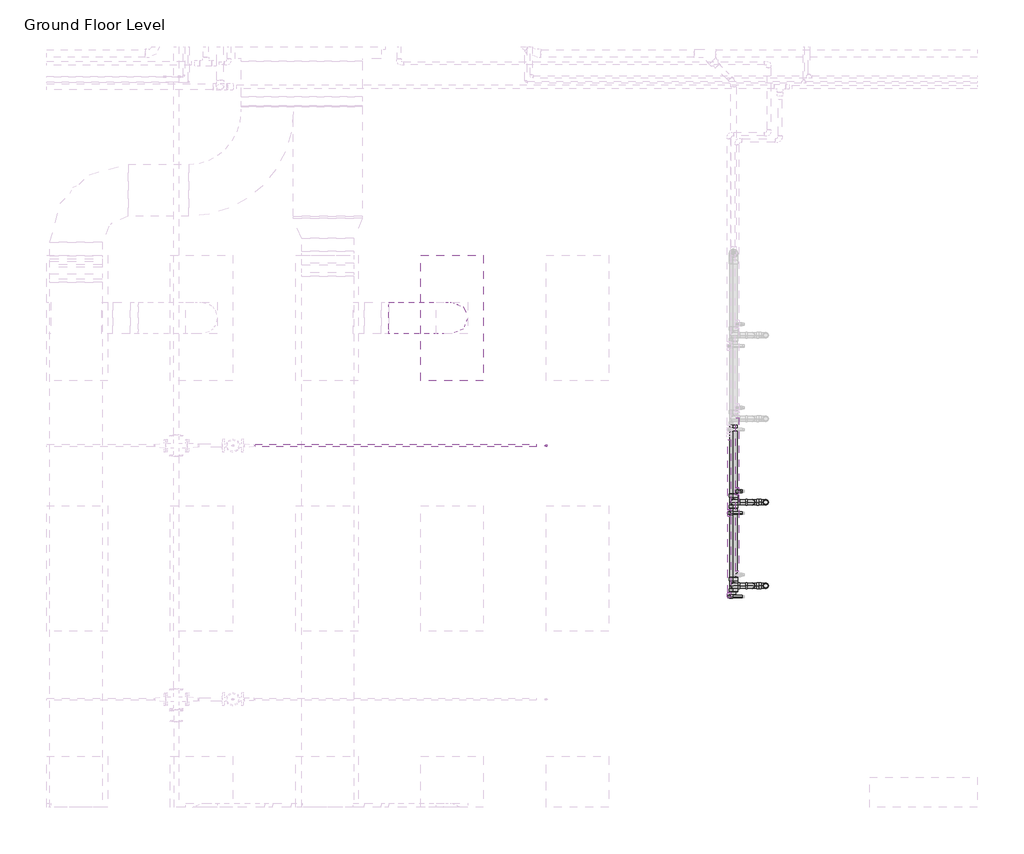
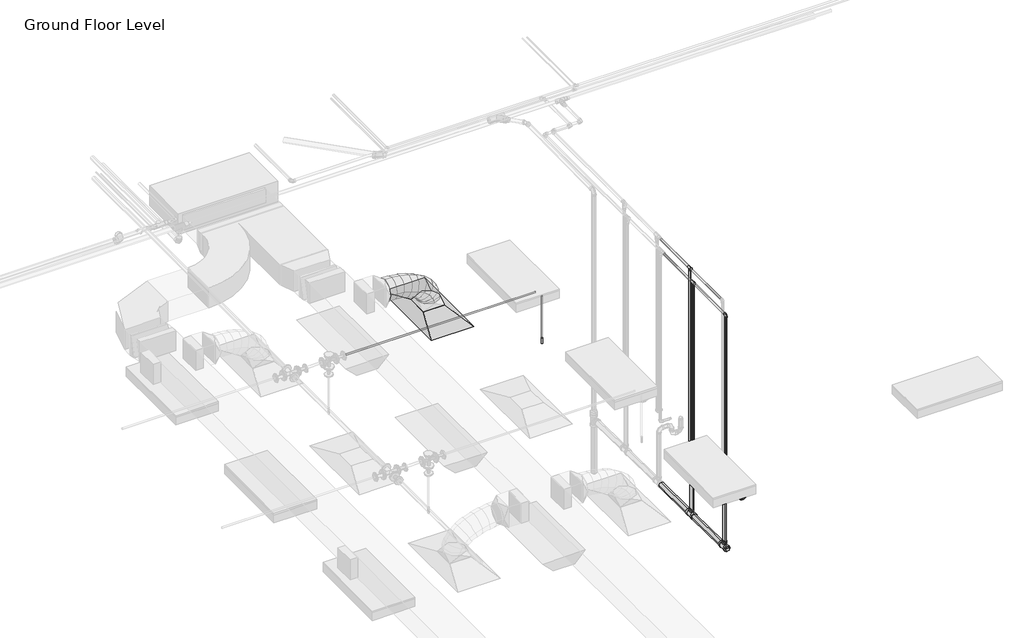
# One storey, part 50 of 74: 24 pipe segments, 17 pipe fittings, 1 air terminal, 1 duct segment, 1 fire suppression terminal.
"""IFC4 building model written with IfcOpenShell, lengths in millimetres."""

from ifc_helpers import new_model, si_unit, point, frame, frame_2d, origin, place, context, project, spatial, circle_curve, ellipse_curve, trimmed, segment, composite_curve, outline, extrude, transform, mapped, element, save
from ifc_brep_helpers import plane_surface, cylinder_surface, advanced_brep
from components import m_return_diffuser_1200x600_1200_x_600_face_300_x_300_d1983ef6, m_sprinkler_dry_pendent_hosted_15_mm_dry_pendent_9bda8e11, m_bend_pvc_sch_40_dwv_standard_738aab8b, m_plug_pvc_sch_40_dwv_standard_af737ab4, m_tee_reducing_sanitary_pvc_sch_40_dwv_standard_21d2848c, standard_b266ab3f, standard_636910a4

model = new_model("IFC4")

# Units and contexts
model_context = context("Model", 3, world=origin())
ifc_project = project(units=[si_unit("LENGTHUNIT", "METRE", prefix="MILLI")], contexts=[model_context])

# Site, building, storey
site = spatial("IfcSite", under=ifc_project)
building = spatial("IfcBuilding", under=site)
storey = spatial("IfcBuildingStorey", under=building, Name="Ground Floor Level", Elevation=900.0)

# Air terminal
placement = place(None, origin())
m_return_diffuser_1200x600_1200_x_600_face_300_x_300_shape = m_return_diffuser_1200x600_1200_x_600_face_300_x_300_d1983ef6(model_context)
element("IfcAirTerminal", 1, ObjectType="M_Supply Diffuser 1200x600 : 1200 x 600 Face 300 x 300 Connection", at=placement, inside=storey, context=model_context, shape_type="MappedRepresentation", body=[
    mapped(m_return_diffuser_1200x600_1200_x_600_face_300_x_300_shape, transform((-3337.2327605, 11235.2153534, 3650.0), x_axis=(0.0, 1.0, 0.0), y_axis=(-1.0, 0.0, 0.0), z_axis=(0.0, 0.0, 1.0))),
])

# Duct segment
element("IfcDuctSegment", 2, ObjectType="Flex - Round", at=placement, inside=storey, context=model_context, shape_type="AdvancedBrep", body=[
    advanced_brep(
    [(-3187.2327605, 11235.2153534, 3826.6), (-3337.2327605, 11085.2153534, 3826.6), (-3487.2327605, 11235.2153534, 3826.6), (-3337.2327605, 11385.2153534, 3826.6), (-3187.2327605, 11235.2153534, 3882.126257), (-3337.2327605, 11085.2153534, 3857.3050511), (-3487.2327605, 11235.2153534, 3832.4838453), (-3337.2327605, 11385.2153534, 3857.3050511), (-3218.4262882, 11235.2153534, 3973.8000574), (-3353.8942835, 11085.2153534, 3906.2711428), (-3489.3622789, 11235.2153534, 3838.7422282), (-3353.8942835, 11385.2153534, 3906.2711428), (-3288.1608022, 11235.2153534, 4076.4131518), (-3399.7726231, 11085.2153534, 3973.7803017), (-3511.3844439, 11235.2153534, 3871.1474515), (-3399.7726231, 11385.2153534, 3973.7803017), (-3386.0893727, 11235.2153534, 4155.7119505), (-3468.7084348, 11085.2153534, 4029.6018768), (-3551.3274968, 11235.2153534, 3903.4918031), (-3468.7084348, 11385.2153534, 4029.6018768), (-3494.8345319, 11235.2153534, 4212.2274343), (-3554.5423743, 11085.2153534, 4074.2102682), (-3614.2502168, 11235.2153534, 3936.193102), (-3554.5423743, 11385.2153534, 4074.2102682), (-3609.1269227, 11235.2153534, 4252.3116148), (-3651.1150974, 11085.2153534, 4108.0798761), (-3693.1032721, 11235.2153534, 3963.8481373), (-3651.1150974, 11385.2153534, 4108.0798761), (-3724.8585456, 11235.2153534, 4279.3191535), (-3752.2672597, 11085.2153534, 4131.6851006), (-3779.6759737, 11235.2153534, 3984.0510476), (-3752.2672597, 11385.2153534, 4131.6851006), (-3837.5181627, 11235.2153534, 4294.9502122), (-3851.8395168, 11085.2153534, 4145.5003418), (-3866.1608709, 11235.2153534, 3996.0504715), (-3851.8395168, 11385.2153534, 4145.5003418), (-3932.3402653, 11235.2153534, 4300.0), (-3936.3315914, 11085.2153534, 4150.0), (-3940.3229175, 11235.2153534, 4000.0), (-3936.3315914, 11385.2153534, 4150.0), (-3943.6725245, 11235.2153534, 4300.0), (-3943.6725245, 11385.2153534, 4150.0), (-3943.6725245, 11235.2153534, 4000.0), (-3943.6725245, 11085.2153534, 4150.0)],
    [
        (0, 1, circle_curve(frame((-3337.2327605, 11235.2153534, 3826.6), z_axis=(0.0, 0.0, -1.0), x_axis=(1.0, 0.0, 0.0)), 150.0)),
        (1, 2, circle_curve(frame((-3337.2327605, 11235.2153534, 3826.6), z_axis=(0.0, 0.0, -1.0), x_axis=(1.0, 0.0, 0.0)), 150.0)),
        (2, 3, circle_curve(frame((-3337.2327605, 11235.2153534, 3826.6), z_axis=(0.0, 0.0, -1.0), x_axis=(1.0, 0.0, 0.0)), 150.0)),
        (3, 0, circle_curve(frame((-3337.2327605, 11235.2153534, 3826.6), z_axis=(0.0, 0.0, -1.0), x_axis=(1.0, 0.0, 0.0)), 150.0)),
        (0, 4),
        (4, 5, ellipse_curve(frame((-3337.2327605, 11235.2153534, 3857.3050511), z_axis=(0.16325469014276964, 0.0, -0.9865839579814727), x_axis=(-0.9865839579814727, 0.0, -0.16325469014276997)), 152.039772, 150.0)),
        (5, 1),
        (5, 6, ellipse_curve(frame((-3337.2327605, 11235.2153534, 3857.3050511), z_axis=(0.16325469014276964, 0.0, -0.9865839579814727), x_axis=(-0.9865839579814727, 0.0, -0.16325469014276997)), 152.039772, 150.0)),
        (6, 2),
        (6, 7, ellipse_curve(frame((-3337.2327605, 11235.2153534, 3857.3050511), z_axis=(0.16325469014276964, 0.0, -0.9865839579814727), x_axis=(-0.9865839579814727, 0.0, -0.16325469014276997)), 152.039772, 150.0)),
        (7, 3),
        (7, 4, ellipse_curve(frame((-3337.2327605, 11235.2153534, 3857.3050511), z_axis=(0.16325469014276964, 0.0, -0.9865839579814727), x_axis=(-0.9865839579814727, 0.0, -0.16325469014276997)), 152.039772, 150.0)),
        (4, 8),
        (8, 9, ellipse_curve(frame((-3353.8942835, 11235.2153534, 3906.2711428), z_axis=(0.4461293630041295, 0.0, -0.8949684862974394), x_axis=(-0.8949684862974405, 0.0, -0.4461293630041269)), 151.3662184, 150.0)),
        (9, 5),
        (9, 10, ellipse_curve(frame((-3353.8942835, 11235.2153534, 3906.2711428), z_axis=(0.4461293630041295, 0.0, -0.8949684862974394), x_axis=(-0.8949684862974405, 0.0, -0.4461293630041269)), 151.3662184, 150.0)),
        (10, 6),
        (10, 11, ellipse_curve(frame((-3353.8942835, 11235.2153534, 3906.2711428), z_axis=(0.4461293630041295, 0.0, -0.8949684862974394), x_axis=(-0.8949684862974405, 0.0, -0.4461293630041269)), 151.3662184, 150.0)),
        (11, 7),
        (11, 8, ellipse_curve(frame((-3353.8942835, 11235.2153534, 3906.2711428), z_axis=(0.4461293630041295, 0.0, -0.8949684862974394), x_axis=(-0.8949684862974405, 0.0, -0.4461293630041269)), 151.3662184, 150.0)),
        (8, 12),
        (12, 13, ellipse_curve(frame((-3399.7726231, 11235.2153534, 3973.7803017), z_axis=(0.6768778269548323, 0.0, -0.7360953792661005), x_axis=(-0.7360953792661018, 0.0, -0.676877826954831)), 151.6268462, 150.0)),
        (13, 9),
        (13, 14, ellipse_curve(frame((-3399.7726231, 11235.2153534, 3973.7803017), z_axis=(0.6768778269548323, 0.0, -0.7360953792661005), x_axis=(-0.7360953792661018, 0.0, -0.676877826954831)), 151.6268462, 150.0)),
        (14, 10),
        (14, 15, ellipse_curve(frame((-3399.7726231, 11235.2153534, 3973.7803017), z_axis=(0.6768778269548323, 0.0, -0.7360953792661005), x_axis=(-0.7360953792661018, 0.0, -0.676877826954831)), 151.6268462, 150.0)),
        (15, 11),
        (15, 12, ellipse_curve(frame((-3399.7726231, 11235.2153534, 3973.7803017), z_axis=(0.6768778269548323, 0.0, -0.7360953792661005), x_axis=(-0.7360953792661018, 0.0, -0.676877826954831)), 151.6268462, 150.0)),
        (12, 16),
        (16, 17, ellipse_curve(frame((-3468.7084348, 11235.2153534, 4029.6018768), z_axis=(0.8364756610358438, 0.0, -0.5480040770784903), x_axis=(-0.5480040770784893, 0.0, -0.8364756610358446)), 150.7635901, 150.0)),
        (17, 13),
        (17, 18, ellipse_curve(frame((-3468.7084348, 11235.2153534, 4029.6018768), z_axis=(0.8364756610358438, 0.0, -0.5480040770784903), x_axis=(-0.5480040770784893, 0.0, -0.8364756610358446)), 150.7635901, 150.0)),
        (18, 14),
        (18, 19, ellipse_curve(frame((-3468.7084348, 11235.2153534, 4029.6018768), z_axis=(0.8364756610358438, 0.0, -0.5480040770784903), x_axis=(-0.5480040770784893, 0.0, -0.8364756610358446)), 150.7635901, 150.0)),
        (19, 15),
        (19, 16, ellipse_curve(frame((-3468.7084348, 11235.2153534, 4029.6018768), z_axis=(0.8364756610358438, 0.0, -0.5480040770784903), x_axis=(-0.5480040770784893, 0.0, -0.8364756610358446)), 150.7635901, 150.0)),
        (16, 20),
        (20, 21, ellipse_curve(frame((-3554.5423743, 11235.2153534, 4074.2102682), z_axis=(0.9177970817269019, 0.0, -0.3970497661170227), x_axis=(-0.39704976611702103, 0.0, -0.9177970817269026)), 150.3787372, 150.0)),
        (21, 17),
        (21, 22, ellipse_curve(frame((-3554.5423743, 11235.2153534, 4074.2102682), z_axis=(0.9177970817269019, 0.0, -0.3970497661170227), x_axis=(-0.39704976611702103, 0.0, -0.9177970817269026)), 150.3787372, 150.0)),
        (22, 18),
        (22, 23, ellipse_curve(frame((-3554.5423743, 11235.2153534, 4074.2102682), z_axis=(0.9177970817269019, 0.0, -0.3970497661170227), x_axis=(-0.39704976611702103, 0.0, -0.9177970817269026)), 150.3787372, 150.0)),
        (23, 19),
        (23, 20, ellipse_curve(frame((-3554.5423743, 11235.2153534, 4074.2102682), z_axis=(0.9177970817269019, 0.0, -0.3970497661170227), x_axis=(-0.39704976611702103, 0.0, -0.9177970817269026)), 150.3787372, 150.0)),
        (20, 24),
        (24, 25, ellipse_curve(frame((-3651.1150974, 11235.2153534, 4108.0798761), z_axis=(0.9601419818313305, 0.0, -0.2795127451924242), x_axis=(-0.2795127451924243, 0.0, -0.9601419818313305)), 150.2191774, 150.0)),
        (25, 21),
        (25, 26, ellipse_curve(frame((-3651.1150974, 11235.2153534, 4108.0798761), z_axis=(0.9601419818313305, 0.0, -0.2795127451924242), x_axis=(-0.2795127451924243, 0.0, -0.9601419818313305)), 150.2191774, 150.0)),
        (26, 22),
        (26, 27, ellipse_curve(frame((-3651.1150974, 11235.2153534, 4108.0798761), z_axis=(0.9601419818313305, 0.0, -0.2795127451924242), x_axis=(-0.2795127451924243, 0.0, -0.9601419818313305)), 150.2191774, 150.0)),
        (27, 23),
        (27, 24, ellipse_curve(frame((-3651.1150974, 11235.2153534, 4108.0798761), z_axis=(0.9601419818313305, 0.0, -0.2795127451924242), x_axis=(-0.2795127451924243, 0.0, -0.9601419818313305)), 150.2191774, 150.0)),
        (24, 28),
        (28, 29, ellipse_curve(frame((-3752.2672597, 11235.2153534, 4131.6851006), z_axis=(0.9831995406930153, 0.0, -0.18253400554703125), x_axis=(-0.18253400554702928, 0.0, -0.9831995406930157)), 150.1567554, 150.0)),
        (29, 25),
        (29, 30, ellipse_curve(frame((-3752.2672597, 11235.2153534, 4131.6851006), z_axis=(0.9831995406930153, 0.0, -0.18253400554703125), x_axis=(-0.18253400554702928, 0.0, -0.9831995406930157)), 150.1567554, 150.0)),
        (30, 26),
        (30, 31, ellipse_curve(frame((-3752.2672597, 11235.2153534, 4131.6851006), z_axis=(0.9831995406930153, 0.0, -0.18253400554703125), x_axis=(-0.18253400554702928, 0.0, -0.9831995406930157)), 150.1567554, 150.0)),
        (31, 27),
        (31, 28, ellipse_curve(frame((-3752.2672597, 11235.2153534, 4131.6851006), z_axis=(0.9831995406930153, 0.0, -0.18253400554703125), x_axis=(-0.18253400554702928, 0.0, -0.9831995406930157)), 150.1567554, 150.0)),
        (28, 32),
        (32, 33, ellipse_curve(frame((-3851.8395168, 11235.2153534, 4145.5003418), z_axis=(0.9954399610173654, 0.0, -0.09539016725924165), x_axis=(-0.09539016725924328, 0.0, -0.9954399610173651)), 150.1344895, 150.0)),
        (33, 29),
        (33, 34, ellipse_curve(frame((-3851.8395168, 11235.2153534, 4145.5003418), z_axis=(0.9954399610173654, 0.0, -0.09539016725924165), x_axis=(-0.09539016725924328, 0.0, -0.9954399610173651)), 150.1344895, 150.0)),
        (34, 30),
        (34, 35, ellipse_curve(frame((-3851.8395168, 11235.2153534, 4145.5003418), z_axis=(0.9954399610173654, 0.0, -0.09539016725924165), x_axis=(-0.09539016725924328, 0.0, -0.9954399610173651)), 150.1344895, 150.0)),
        (35, 31),
        (35, 32, ellipse_curve(frame((-3851.8395168, 11235.2153534, 4145.5003418), z_axis=(0.9954399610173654, 0.0, -0.09539016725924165), x_axis=(-0.09539016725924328, 0.0, -0.9954399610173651)), 150.1344895, 150.0)),
        (32, 36),
        (36, 37, ellipse_curve(frame((-3936.3315914, 11235.2153534, 4150.0), z_axis=(0.9996461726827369, 0.0, -0.026599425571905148), x_axis=(-0.026599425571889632, 0.0, -0.9996461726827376)), 150.0530929, 150.0)),
        (37, 33),
        (37, 38, ellipse_curve(frame((-3936.3315914, 11235.2153534, 4150.0), z_axis=(0.9996461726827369, 0.0, -0.026599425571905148), x_axis=(-0.026599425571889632, 0.0, -0.9996461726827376)), 150.0530929, 150.0)),
        (38, 34),
        (38, 39, ellipse_curve(frame((-3936.3315914, 11235.2153534, 4150.0), z_axis=(0.9996461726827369, 0.0, -0.026599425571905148), x_axis=(-0.026599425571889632, 0.0, -0.9996461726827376)), 150.0530929, 150.0)),
        (39, 35),
        (39, 36, ellipse_curve(frame((-3936.3315914, 11235.2153534, 4150.0), z_axis=(0.9996461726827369, 0.0, -0.026599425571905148), x_axis=(-0.026599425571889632, 0.0, -0.9996461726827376)), 150.0530929, 150.0)),
        (40, 41, circle_curve(frame((-3943.6725245, 11235.2153534, 4150.0), z_axis=(-1.0, 0.0, 0.0), x_axis=(0.0, 0.0, 1.0)), 150.0)),
        (41, 42, circle_curve(frame((-3943.6725245, 11235.2153534, 4150.0), z_axis=(-1.0, 0.0, 0.0), x_axis=(0.0, 0.0, 1.0)), 150.0)),
        (42, 43, circle_curve(frame((-3943.6725245, 11235.2153534, 4150.0), z_axis=(-1.0, 0.0, 0.0), x_axis=(0.0, 0.0, 1.0)), 150.0)),
        (43, 40, circle_curve(frame((-3943.6725245, 11235.2153534, 4150.0), z_axis=(-1.0, 0.0, 0.0), x_axis=(0.0, 0.0, 1.0)), 150.0)),
        (36, 40),
        (43, 37),
        (42, 38),
        (41, 39),
    ],
    [
        plane_surface(frame((-3337.2327605, 11085.2153534, 3826.6), z_axis=(0.0, 0.0, -1.0), x_axis=(1.0, 0.0, 0.0))),
        cylinder_surface(frame((-3337.2327605, 11235.2153534, 3826.6), z_axis=(0.0, 0.0, -1.0), x_axis=(1.0, 0.0, 0.0)), 150.0),
        cylinder_surface(frame((-3337.2327605, 11235.2153534, 3857.3050511), z_axis=(0.3221289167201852, 0.0, -0.9466958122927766), x_axis=(0.9466958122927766, 0.0, 0.3221289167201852)), 150.0),
        cylinder_surface(frame((-3353.8942835, 11235.2153534, 3906.2711428), z_axis=(0.5620763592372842, 0.0, -0.827085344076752), x_axis=(0.827085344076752, 0.0, 0.5620763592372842)), 150.0),
        cylinder_surface(frame((-3399.7726231, 11235.2153534, 3973.7803017), z_axis=(0.7771544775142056, 0.0, -0.6293098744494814), x_axis=(0.6293098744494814, 0.0, 0.7771544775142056)), 150.0),
        cylinder_surface(frame((-3468.7084348, 11235.2153534, 4029.6018768), z_axis=(0.8873236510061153, 0.0, -0.4611471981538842), x_axis=(0.4611471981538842, 0.0, 0.8873236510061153)), 150.0),
        cylinder_surface(frame((-3554.5423743, 11235.2153534, 4074.2102682), z_axis=(0.9436474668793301, 0.0, -0.3309523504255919), x_axis=(0.3309523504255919, 0.0, 0.9436474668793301)), 150.0),
        cylinder_surface(frame((-3651.1150974, 11235.2153534, 4108.0798761), z_axis=(0.9738347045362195, 0.0, -0.22725749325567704), x_axis=(0.22725749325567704, 0.0, 0.9738347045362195)), 150.0),
        cylinder_surface(frame((-3752.2672597, 11235.2153534, 4131.6851006), z_axis=(0.9905115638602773, 0.0, -0.1374294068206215), x_axis=(0.1374294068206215, 0.0, 0.9905115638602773)), 150.0),
        cylinder_surface(frame((-3851.8395168, 11235.2153534, 4145.5003418), z_axis=(0.9985849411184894, 0.0, -0.05318002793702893), x_axis=(0.05318002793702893, 0.0, 0.9985849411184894)), 150.0),
        plane_surface(frame((-3943.6725245, 11235.2153534, 4000.0), z_axis=(-1.0, 0.0, 0.0), x_axis=(0.0, -1.0, 0.0))),
        cylinder_surface(frame((-3936.3315914, 11235.2153534, 4150.0), z_axis=(1.0, 0.0, 0.0), x_axis=(0.0, 0.0, 1.0)), 150.0),
    ],
    [
        (0, [[1, 2, 3, 4]]),
        (1, [[-1, 5, 6, 7]]),
        (1, [[-2, -7, 8, 9]]),
        (1, [[-3, -9, 10, 11]]),
        (1, [[-4, -11, 12, -5]]),
        (2, [[-6, 13, 14, 15]]),
        (2, [[-8, -15, 16, 17]]),
        (2, [[-10, -17, 18, 19]]),
        (2, [[-12, -19, 20, -13]]),
        (3, [[-14, 21, 22, 23]]),
        (3, [[-16, -23, 24, 25]]),
        (3, [[-18, -25, 26, 27]]),
        (3, [[-20, -27, 28, -21]]),
        (4, [[-22, 29, 30, 31]]),
        (4, [[-24, -31, 32, 33]]),
        (4, [[-26, -33, 34, 35]]),
        (4, [[-28, -35, 36, -29]]),
        (5, [[-30, 37, 38, 39]]),
        (5, [[-32, -39, 40, 41]]),
        (5, [[-34, -41, 42, 43]]),
        (5, [[-36, -43, 44, -37]]),
        (6, [[-38, 45, 46, 47]]),
        (6, [[-40, -47, 48, 49]]),
        (6, [[-42, -49, 50, 51]]),
        (6, [[-44, -51, 52, -45]]),
        (7, [[-46, 53, 54, 55]]),
        (7, [[-48, -55, 56, 57]]),
        (7, [[-50, -57, 58, 59]]),
        (7, [[-52, -59, 60, -53]]),
        (8, [[-54, 61, 62, 63]]),
        (8, [[-56, -63, 64, 65]]),
        (8, [[-58, -65, 66, 67]]),
        (8, [[-60, -67, 68, -61]]),
        (9, [[-62, 69, 70, 71]]),
        (9, [[-64, -71, 72, 73]]),
        (9, [[-66, -73, 74, 75]]),
        (9, [[-68, -75, 76, -69]]),
        (10, [[77, 78, 79, 80]]),
        (11, [[-70, 81, -80, 82]]),
        (11, [[-72, -82, -79, 83]]),
        (11, [[-74, -83, -78, 84]]),
        (11, [[-76, -84, -77, -81]]),
    ],
),
])

# Fire suppression terminal
m_sprinkler_dry_pendent_hosted_15_mm_dry_pendent_shape = m_sprinkler_dry_pendent_hosted_15_mm_dry_pendent_9bda8e11(model_context)
element("IfcFireSuppressionTerminal", 3, ObjectType="M_Sprinkler - Dry - Pendent - Hosted : 15 mm Dry Pendent", at=placement, inside=storey, context=model_context, shape_type="MappedRepresentation", body=[
    mapped(m_sprinkler_dry_pendent_hosted_15_mm_dry_pendent_shape, transform((-2437.2327605, 10013.008259, 3650.0), x_axis=(1.0, 0.0, 0.0), y_axis=(0.0, -1.0, 0.0), z_axis=(0.0, 0.0, -1.0))),
])

# Pipe fittings
m_bend_pvc_sch_40_dwv_standard_shape = m_bend_pvc_sch_40_dwv_standard_738aab8b(model_context)
element("IfcPipeFitting", 4, ObjectType="M_Bend - PVC - Sch 40 - DWV : Standard", at=placement, inside=storey, context=model_context, shape_type="MappedRepresentation", body=[
    mapped(m_bend_pvc_sch_40_dwv_standard_shape, transform((-463.6645494, 8671.1979139, 1370.0), x_axis=(-1.0, 0.0, 0.0), y_axis=(0.0, 0.0, 1.0), z_axis=(0.0, 1.0, 0.0))),
])
element("IfcPipeFitting", 5, ObjectType="M_Bend - PVC - Sch 40 - DWV : Standard", at=placement, inside=storey, context=model_context, shape_type="MappedRepresentation", body=[
    mapped(m_bend_pvc_sch_40_dwv_standard_shape, transform((-463.6645494, 8671.1979139, 1510.0), x_axis=(0.0, 0.0, 1.0), y_axis=(-1.0, 0.0, 0.0), z_axis=(0.0, -1.0, 0.0))),
])
element("IfcPipeFitting", 6, ObjectType="M_Bend - PVC - Sch 40 - DWV : Standard", at=placement, inside=storey, context=model_context, shape_type="MappedRepresentation", body=[
    mapped(m_bend_pvc_sch_40_dwv_standard_shape, transform((-463.6645494, 9471.1979139, 1370.0), x_axis=(-1.0, 0.0, 0.0), y_axis=(0.0, 0.0, 1.0), z_axis=(0.0, 1.0, 0.0))),
])
element("IfcPipeFitting", 7, ObjectType="M_Bend - PVC - Sch 40 - DWV : Standard", at=placement, inside=storey, context=model_context, shape_type="MappedRepresentation", body=[
    mapped(m_bend_pvc_sch_40_dwv_standard_shape, transform((-463.6645494, 9471.1979139, 1510.0), x_axis=(0.0, 0.0, 1.0), y_axis=(-1.0, 0.0, 0.0), z_axis=(0.0, -1.0, 0.0))),
])
element("IfcPipeFitting", 8, ObjectType="M_Bend - PVC - Sch 40 - DWV : Standard", at=placement, inside=storey, context=model_context, shape_type="MappedRepresentation", body=[
    mapped(m_bend_pvc_sch_40_dwv_standard_shape, transform((-333.6645494, 8671.1979139, 1370.0), x_axis=(1.0, 0.0, 0.0), y_axis=(0.0, 0.0, 1.0), z_axis=(0.0, -1.0, 0.0))),
])
element("IfcPipeFitting", 9, ObjectType="M_Bend - PVC - Sch 40 - DWV : Standard", at=placement, inside=storey, context=model_context, shape_type="MappedRepresentation", body=[
    mapped(m_bend_pvc_sch_40_dwv_standard_shape, transform((-333.6645494, 9471.1979139, 1370.0), x_axis=(1.0, 0.0, 0.0), y_axis=(0.0, 0.0, 1.0), z_axis=(0.0, -1.0, 0.0))),
])
element("IfcPipeFitting", 10, ObjectType="M_Bend - PVC - Sch 40 - DWV : Standard", at=placement, inside=storey, context=model_context, shape_type="MappedRepresentation", body=[
    mapped(m_bend_pvc_sch_40_dwv_standard_shape, transform((-642.2301761, 8671.1979139, 1510.0), x_axis=(-1.0, 0.0, 0.0), y_axis=(0.0, 0.0, -1.0), z_axis=(0.0, -1.0, 0.0))),
])
element("IfcPipeFitting", 11, ObjectType="M_Bend - PVC - Sch 40 - DWV : Standard", at=placement, inside=storey, context=model_context, shape_type="MappedRepresentation", body=[
    mapped(m_bend_pvc_sch_40_dwv_standard_shape, transform((-642.2301761, 9471.1979139, 1510.0), x_axis=(-1.0, 0.0, 0.0), y_axis=(0.0, 0.0, -1.0), z_axis=(0.0, -1.0, 0.0))),
])
m_plug_pvc_sch_40_dwv_standard_shape = m_plug_pvc_sch_40_dwv_standard_af737ab4(model_context)
element("IfcPipeFitting", 12, ObjectType="M_Plug - PVC - Sch 40 - DWV : Standard", at=placement, inside=storey, context=model_context, shape_type="MappedRepresentation", body=[
    mapped(m_plug_pvc_sch_40_dwv_standard_shape, transform((-642.2301761, 8611.7151447, 727.6937137), x_axis=(0.0, -0.9999500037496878, 0.009999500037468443), y_axis=(0.0, -0.009999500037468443, -0.9999500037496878), z_axis=(1.0, 0.0, 0.0))),
])
m_tee_reducing_sanitary_pvc_sch_40_dwv_standard_shape = m_tee_reducing_sanitary_pvc_sch_40_dwv_standard_21d2848c(model_context)
element("IfcPipeFitting", 13, ObjectType="M_Tee Reducing Sanitary - PVC - Sch 40 - DWV : Standard", at=placement, inside=storey, context=model_context, shape_type="MappedRepresentation", body=[
    mapped(m_tee_reducing_sanitary_pvc_sch_40_dwv_standard_shape, transform((-642.2301761, 9471.1979139, 719.098886), x_axis=(0.0, -0.9999500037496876, 0.009999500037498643), y_axis=(0.0, -0.009999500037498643, -0.9999500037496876), z_axis=(1.0, 0.0, 0.0))),
])
element("IfcPipeFitting", 14, ObjectType="M_Tee Reducing Sanitary - PVC - Sch 40 - DWV : Standard", at=placement, inside=storey, context=model_context, shape_type="MappedRepresentation", body=[
    mapped(m_tee_reducing_sanitary_pvc_sch_40_dwv_standard_shape, transform((-642.2301761, 8671.1979139, 727.098886), x_axis=(0.0, -0.9999500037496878, 0.009999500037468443), y_axis=(0.0, -0.009999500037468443, -0.9999500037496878), z_axis=(1.0, 0.0, 0.0))),
])
standard_shape = standard_b266ab3f(model_context)
element("IfcPipeFitting", 15, ObjectType="M_Elbow - CPVC - Sch 40 : Standard", at=placement, inside=storey, context=model_context, shape_type="MappedRepresentation", body=[
    mapped(standard_shape, transform((-607.2327605, 9575.5128345, 1690.0), x_axis=(0.0, 0.0, -1.0), y_axis=(1.0, 0.0, 0.0), z_axis=(0.0, -1.0, 0.0))),
])
element("IfcPipeFitting", 16, ObjectType="M_Elbow - CPVC - Sch 40 : Standard", at=placement, inside=storey, context=model_context, shape_type="MappedRepresentation", body=[
    mapped(standard_shape, transform((-684.0671674, 8566.8829933, 1690.0), x_axis=(-1.0, 0.0, 0.0), y_axis=(0.0, 0.0, 1.0), z_axis=(0.0, 1.0, 0.0))),
])
element("IfcPipeFitting", 17, ObjectType="M_Elbow - CPVC - Sch 40 : Standard", at=placement, inside=storey, context=model_context, shape_type="MappedRepresentation", body=[
    mapped(standard_shape, transform((-684.0671674, 8566.8829933, 4250.0), x_axis=(0.0, 0.0, 1.0), y_axis=(0.0, 1.0, 0.0), z_axis=(-1.0, 0.0, 0.0))),
])
element("IfcPipeFitting", 18, ObjectType="M_Elbow - CPVC - Sch 40 : Standard", at=placement, inside=storey, context=model_context, shape_type="MappedRepresentation", body=[
    mapped(standard_shape, transform((-684.0671674, 9366.8829933, 1690.0), x_axis=(-1.0, 0.0, 0.0), y_axis=(0.0, 0.0, 1.0), z_axis=(0.0, 1.0, 0.0))),
])
standard_2_shape = standard_636910a4(model_context)
element("IfcPipeFitting", 19, ObjectType="M_Tee - CPVC - Sch 40 : Standard", at=placement, inside=storey, context=model_context, shape_type="MappedRepresentation", body=[
    mapped(standard_2_shape, transform((-607.2327605, 9575.5128345, 4315.0), x_axis=(0.0, 1.0, 0.0), y_axis=(0.0, 0.0, 1.0), z_axis=(1.0, 0.0, 0.0))),
])
element("IfcPipeFitting", 20, ObjectType="M_Tee - CPVC - Sch 40 : Standard", at=placement, inside=storey, context=model_context, shape_type="MappedRepresentation", body=[
    mapped(standard_2_shape, transform((-684.0671674, 9366.8829933, 4250.0), x_axis=(0.0, -1.0, 0.0), y_axis=(0.0, 0.0, 1.0), z_axis=(-1.0, 0.0, 0.0))),
])

# Pipe segments
element("IfcPipeSegment", 21, ObjectType="CPVC", at=placement, inside=storey, context=model_context, shape_type="SweptSolid", body=[
    extrude(outline(composite_curve([segment(trimmed(circle_curve(frame_2d((9575.5128345, 1690.0)), 13.335), [point((9562.1778345, 1690.0))], [point((9575.5128345, 1703.335))], False, "CARTESIAN"), True, "CONTINUOUS"), segment(trimmed(circle_curve(frame_2d((9575.5128345, 1690.0)), 13.335), [point((9575.5128345, 1703.335))], [point((9588.8478345, 1690.0))], False, "CARTESIAN"), True, "CONTINUOUS"), segment(trimmed(circle_curve(frame_2d((9575.5128345, 1690.0)), 13.335), [point((9588.8478345, 1690.0))], [point((9575.5128345, 1676.665))], False, "CARTESIAN"), True, "CONTINUOUS"), segment(trimmed(circle_curve(frame_2d((9575.5128345, 1690.0)), 13.335), [point((9575.5128345, 1676.665))], [point((9562.1778345, 1690.0))], False, "CARTESIAN"), True, "CONTINUOUS")], self_intersect=False)), frame((-571.9077105, 0.0, 0.0), z_axis=(1.0, 0.0, 0.0), x_axis=(0.0, 1.0, 0.0)), (0.0, 0.0, 1.0), 14.67495),
])
element("IfcPipeSegment", 22, ObjectType="CPVC", at=placement, inside=storey, context=model_context, shape_type="SweptSolid", body=[
    extrude(outline(composite_curve([segment(trimmed(circle_curve(frame_2d((-607.2327605, 9575.5128345)), 13.335), [point((-593.8977605, 9575.5128345))], [point((-607.2327605, 9562.1778345))], False, "CARTESIAN"), True, "CONTINUOUS"), segment(trimmed(circle_curve(frame_2d((-607.2327605, 9575.5128345)), 13.335), [point((-607.2327605, 9562.1778345))], [point((-620.5677605, 9575.5128345))], False, "CARTESIAN"), True, "CONTINUOUS"), segment(trimmed(circle_curve(frame_2d((-607.2327605, 9575.5128345)), 13.335), [point((-620.5677605, 9575.5128345))], [point((-607.2327605, 9588.8478345))], False, "CARTESIAN"), True, "CONTINUOUS"), segment(trimmed(circle_curve(frame_2d((-607.2327605, 9575.5128345)), 13.335), [point((-607.2327605, 9588.8478345))], [point((-593.8977605, 9575.5128345))], False, "CARTESIAN"), True, "CONTINUOUS")], self_intersect=False)), frame((0.0, 0.0, 1725.32505), z_axis=(0.0, 0.0, 1.0), x_axis=(1.0, 0.0, 0.0)), (0.0, 0.0, 1.0), 2557.13755),
])
element("IfcPipeSegment", 23, ObjectType="CPVC", at=placement, inside=storey, context=model_context, shape_type="SweptSolid", body=[
    extrude(outline(composite_curve([segment(trimmed(circle_curve(frame_2d((4315.0, -607.2327605)), 13.335), [point((4315.0, -620.5677605))], [point((4301.665, -607.2327605))], False, "CARTESIAN"), True, "CONTINUOUS"), segment(trimmed(circle_curve(frame_2d((4315.0, -607.2327605)), 13.335), [point((4301.665, -607.2327605))], [point((4315.0, -593.8977605))], False, "CARTESIAN"), True, "CONTINUOUS"), segment(trimmed(circle_curve(frame_2d((4315.0, -607.2327605)), 13.335), [point((4315.0, -593.8977605))], [point((4328.335, -607.2327605))], False, "CARTESIAN"), True, "CONTINUOUS"), segment(trimmed(circle_curve(frame_2d((4315.0, -607.2327605)), 13.335), [point((4328.335, -607.2327605))], [point((4315.0, -620.5677605))], False, "CARTESIAN"), True, "CONTINUOUS")], self_intersect=False)), frame((0.0, 9608.0502345, 0.0), z_axis=(0.0, 1.0, 0.0), x_axis=(0.0, 0.0, 1.0)), (0.0, 0.0, 1.0), 670.6124),
])
element("IfcPipeSegment", 24, ObjectType="CPVC", at=placement, inside=storey, context=model_context, shape_type="SweptSolid", body=[
    extrude(outline(composite_curve([segment(trimmed(circle_curve(frame_2d((4315.0, -607.2327605)), 13.335), [point((4315.0, -620.5677605))], [point((4301.665, -607.2327605))], False, "CARTESIAN"), True, "CONTINUOUS"), segment(trimmed(circle_curve(frame_2d((4315.0, -607.2327605)), 13.335), [point((4301.665, -607.2327605))], [point((4315.0, -593.8977605))], False, "CARTESIAN"), True, "CONTINUOUS"), segment(trimmed(circle_curve(frame_2d((4315.0, -607.2327605)), 13.335), [point((4315.0, -593.8977605))], [point((4328.335, -607.2327605))], False, "CARTESIAN"), True, "CONTINUOUS"), segment(trimmed(circle_curve(frame_2d((4315.0, -607.2327605)), 13.335), [point((4328.335, -607.2327605))], [point((4315.0, -620.5677605))], False, "CARTESIAN"), True, "CONTINUOUS")], self_intersect=False)), frame((0.0, 8810.8378845, 0.0), z_axis=(0.0, 1.0, 0.0), x_axis=(0.0, 0.0, 1.0)), (0.0, 0.0, 1.0), 732.13755),
])
element("IfcPipeSegment", 25, ObjectType="CPVC", at=placement, inside=storey, context=model_context, shape_type="SweptSolid", body=[
    extrude(outline(composite_curve([segment(trimmed(circle_curve(frame_2d((8566.8829933, 1690.0)), 13.335), [point((8580.2179933, 1690.0))], [point((8566.8829933, 1676.665))], False, "CARTESIAN"), True, "CONTINUOUS"), segment(trimmed(circle_curve(frame_2d((8566.8829933, 1690.0)), 13.335), [point((8566.8829933, 1676.665))], [point((8553.5479933, 1690.0))], False, "CARTESIAN"), True, "CONTINUOUS"), segment(trimmed(circle_curve(frame_2d((8566.8829933, 1690.0)), 13.335), [point((8553.5479933, 1690.0))], [point((8566.8829933, 1703.335))], False, "CARTESIAN"), True, "CONTINUOUS"), segment(trimmed(circle_curve(frame_2d((8566.8829933, 1690.0)), 13.335), [point((8566.8829933, 1703.335))], [point((8580.2179933, 1690.0))], False, "CARTESIAN"), True, "CONTINUOUS")], self_intersect=False)), frame((-648.7421174, 0.0, 0.0), z_axis=(1.0, 0.0, 0.0), x_axis=(0.0, 1.0, 0.0)), (0.0, 0.0, 1.0), 91.5093569),
])
element("IfcPipeSegment", 26, ObjectType="CPVC", at=placement, inside=storey, context=model_context, shape_type="SweptSolid", body=[
    extrude(outline(composite_curve([segment(trimmed(circle_curve(frame_2d((-684.0671674, 8566.8829933)), 13.335), [point((-697.4021674, 8566.8829933))], [point((-684.0671674, 8580.2179933))], False, "CARTESIAN"), True, "CONTINUOUS"), segment(trimmed(circle_curve(frame_2d((-684.0671674, 8566.8829933)), 13.335), [point((-684.0671674, 8580.2179933))], [point((-670.7321674, 8566.8829933))], False, "CARTESIAN"), True, "CONTINUOUS"), segment(trimmed(circle_curve(frame_2d((-684.0671674, 8566.8829933)), 13.335), [point((-670.7321674, 8566.8829933))], [point((-684.0671674, 8553.5479933))], False, "CARTESIAN"), True, "CONTINUOUS"), segment(trimmed(circle_curve(frame_2d((-684.0671674, 8566.8829933)), 13.335), [point((-684.0671674, 8553.5479933))], [point((-697.4021674, 8566.8829933))], False, "CARTESIAN"), True, "CONTINUOUS")], self_intersect=False)), frame((0.0, 0.0, 1725.32505), z_axis=(0.0, 0.0, 1.0), x_axis=(1.0, 0.0, 0.0)), (0.0, 0.0, 1.0), 2489.3499),
])
element("IfcPipeSegment", 27, ObjectType="CPVC", at=placement, inside=storey, context=model_context, shape_type="SweptSolid", body=[
    extrude(outline(composite_curve([segment(trimmed(circle_curve(frame_2d((9366.8829933, 1690.0)), 13.335), [point((9380.2179933, 1690.0))], [point((9366.8829933, 1676.665))], False, "CARTESIAN"), True, "CONTINUOUS"), segment(trimmed(circle_curve(frame_2d((9366.8829933, 1690.0)), 13.335), [point((9366.8829933, 1676.665))], [point((9353.5479933, 1690.0))], False, "CARTESIAN"), True, "CONTINUOUS"), segment(trimmed(circle_curve(frame_2d((9366.8829933, 1690.0)), 13.335), [point((9353.5479933, 1690.0))], [point((9366.8829933, 1703.335))], False, "CARTESIAN"), True, "CONTINUOUS"), segment(trimmed(circle_curve(frame_2d((9366.8829933, 1690.0)), 13.335), [point((9366.8829933, 1703.335))], [point((9380.2179933, 1690.0))], False, "CARTESIAN"), True, "CONTINUOUS")], self_intersect=False)), frame((-648.7421174, 0.0, 0.0), z_axis=(1.0, 0.0, 0.0), x_axis=(0.0, 1.0, 0.0)), (0.0, 0.0, 1.0), 91.5093569),
])
element("IfcPipeSegment", 28, ObjectType="CPVC", at=placement, inside=storey, context=model_context, shape_type="SweptSolid", body=[
    extrude(outline(composite_curve([segment(trimmed(circle_curve(frame_2d((-684.0671674, 9366.8829933)), 13.335), [point((-697.4021674, 9366.8829933))], [point((-684.0671674, 9380.2179933))], False, "CARTESIAN"), True, "CONTINUOUS"), segment(trimmed(circle_curve(frame_2d((-684.0671674, 9366.8829933)), 13.335), [point((-684.0671674, 9380.2179933))], [point((-670.7321674, 9366.8829933))], False, "CARTESIAN"), True, "CONTINUOUS"), segment(trimmed(circle_curve(frame_2d((-684.0671674, 9366.8829933)), 13.335), [point((-670.7321674, 9366.8829933))], [point((-684.0671674, 9353.5479933))], False, "CARTESIAN"), True, "CONTINUOUS"), segment(trimmed(circle_curve(frame_2d((-684.0671674, 9366.8829933)), 13.335), [point((-684.0671674, 9353.5479933))], [point((-697.4021674, 9366.8829933))], False, "CARTESIAN"), True, "CONTINUOUS")], self_intersect=False)), frame((0.0, 0.0, 1725.32505), z_axis=(0.0, 0.0, 1.0), x_axis=(1.0, 0.0, 0.0)), (0.0, 0.0, 1.0), 2492.13755),
])
element("IfcPipeSegment", 29, ObjectType="CPVC", at=placement, inside=storey, context=model_context, shape_type="SweptSolid", body=[
    extrude(outline(composite_curve([segment(trimmed(circle_curve(frame_2d((4250.0, -684.0671674)), 13.335), [point((4250.0, -670.7321674))], [point((4263.335, -684.0671674))], False, "CARTESIAN"), True, "CONTINUOUS"), segment(trimmed(circle_curve(frame_2d((4250.0, -684.0671674)), 13.335), [point((4263.335, -684.0671674))], [point((4250.0, -697.4021674))], False, "CARTESIAN"), True, "CONTINUOUS"), segment(trimmed(circle_curve(frame_2d((4250.0, -684.0671674)), 13.335), [point((4250.0, -697.4021674))], [point((4236.665, -684.0671674))], False, "CARTESIAN"), True, "CONTINUOUS"), segment(trimmed(circle_curve(frame_2d((4250.0, -684.0671674)), 13.335), [point((4236.665, -684.0671674))], [point((4250.0, -670.7321674))], False, "CARTESIAN"), True, "CONTINUOUS")], self_intersect=False)), frame((0.0, 8602.2080433, 0.0), z_axis=(0.0, 1.0, 0.0), x_axis=(0.0, 0.0, 1.0)), (0.0, 0.0, 1.0), 732.13755),
])
element("IfcPipeSegment", 30, ObjectType="CPVC", at=placement, inside=storey, context=model_context, shape_type="SweptSolid", body=[
    extrude(outline(composite_curve([segment(trimmed(circle_curve(frame_2d((4250.0, -684.0671674)), 13.335), [point((4250.0, -670.7321674))], [point((4263.335, -684.0671674))], False, "CARTESIAN"), True, "CONTINUOUS"), segment(trimmed(circle_curve(frame_2d((4250.0, -684.0671674)), 13.335), [point((4263.335, -684.0671674))], [point((4250.0, -697.4021674))], False, "CARTESIAN"), True, "CONTINUOUS"), segment(trimmed(circle_curve(frame_2d((4250.0, -684.0671674)), 13.335), [point((4250.0, -697.4021674))], [point((4236.665, -684.0671674))], False, "CARTESIAN"), True, "CONTINUOUS"), segment(trimmed(circle_curve(frame_2d((4250.0, -684.0671674)), 13.335), [point((4236.665, -684.0671674))], [point((4250.0, -670.7321674))], False, "CARTESIAN"), True, "CONTINUOUS")], self_intersect=False)), frame((0.0, 9399.4203933, 0.0), z_axis=(0.0, 1.0, 0.0), x_axis=(0.0, 0.0, 1.0)), (0.0, 0.0, 1.0), 670.6124),
])
element("IfcPipeSegment", 31, ObjectType="PVC - DWV", at=placement, inside=storey, context=model_context, shape_type="SweptSolid", body=[
    extrude(outline(composite_curve([segment(trimmed(circle_curve(frame_2d((-333.6645494, 8671.1979139)), 24.13), [point((-357.7945494, 8671.1979139))], [point((-333.6645494, 8695.3279139))], False, "CARTESIAN"), True, "CONTINUOUS"), segment(trimmed(circle_curve(frame_2d((-333.6645494, 8671.1979139)), 24.13), [point((-333.6645494, 8695.3279139))], [point((-309.5345494, 8671.1979139))], False, "CARTESIAN"), True, "CONTINUOUS"), segment(trimmed(circle_curve(frame_2d((-333.6645494, 8671.1979139)), 24.13), [point((-309.5345494, 8671.1979139))], [point((-333.6645494, 8647.0679139))], False, "CARTESIAN"), True, "CONTINUOUS"), segment(trimmed(circle_curve(frame_2d((-333.6645494, 8671.1979139)), 24.13), [point((-333.6645494, 8647.0679139))], [point((-357.7945494, 8671.1979139))], False, "CARTESIAN"), True, "CONTINUOUS")], self_intersect=False)), frame((0.0, 0.0, 1431.8998), z_axis=(0.0, 0.0, 1.0), x_axis=(1.0, 0.0, 0.0)), (0.0, 0.0, 1.0), 118.1002),
])
element("IfcPipeSegment", 32, ObjectType="PVC - DWV", at=placement, inside=storey, context=model_context, shape_type="SweptSolid", body=[
    extrude(outline(composite_curve([segment(trimmed(circle_curve(frame_2d((8671.1979139, 1370.0)), 24.13), [point((8695.3279139, 1370.0))], [point((8671.1979139, 1345.87))], False, "CARTESIAN"), True, "CONTINUOUS"), segment(trimmed(circle_curve(frame_2d((8671.1979139, 1370.0)), 24.13), [point((8671.1979139, 1345.87))], [point((8647.0679139, 1370.0))], False, "CARTESIAN"), True, "CONTINUOUS"), segment(trimmed(circle_curve(frame_2d((8671.1979139, 1370.0)), 24.13), [point((8647.0679139, 1370.0))], [point((8671.1979139, 1394.13))], False, "CARTESIAN"), True, "CONTINUOUS"), segment(trimmed(circle_curve(frame_2d((8671.1979139, 1370.0)), 24.13), [point((8671.1979139, 1394.13))], [point((8695.3279139, 1370.0))], False, "CARTESIAN"), True, "CONTINUOUS")], self_intersect=False)), frame((-401.7647494, 0.0, 0.0), z_axis=(1.0, 0.0, 0.0), x_axis=(0.0, 1.0, 0.0)), (0.0, 0.0, 1.0), 6.2004),
])
element("IfcPipeSegment", 33, ObjectType="PVC - DWV", at=placement, inside=storey, context=model_context, shape_type="SweptSolid", body=[
    extrude(outline(composite_curve([segment(trimmed(circle_curve(frame_2d((-463.6645494, 8671.1979139)), 24.13), [point((-487.7945494, 8671.1979139))], [point((-463.6645494, 8695.3279139))], False, "CARTESIAN"), True, "CONTINUOUS"), segment(trimmed(circle_curve(frame_2d((-463.6645494, 8671.1979139)), 24.13), [point((-463.6645494, 8695.3279139))], [point((-439.5345494, 8671.1979139))], False, "CARTESIAN"), True, "CONTINUOUS"), segment(trimmed(circle_curve(frame_2d((-463.6645494, 8671.1979139)), 24.13), [point((-439.5345494, 8671.1979139))], [point((-463.6645494, 8647.0679139))], False, "CARTESIAN"), True, "CONTINUOUS"), segment(trimmed(circle_curve(frame_2d((-463.6645494, 8671.1979139)), 24.13), [point((-463.6645494, 8647.0679139))], [point((-487.7945494, 8671.1979139))], False, "CARTESIAN"), True, "CONTINUOUS")], self_intersect=False)), frame((0.0, 0.0, 1431.8998), z_axis=(0.0, 0.0, 1.0), x_axis=(1.0, 0.0, 0.0)), (0.0, 0.0, 1.0), 16.2004),
])
element("IfcPipeSegment", 34, ObjectType="PVC - DWV", at=placement, inside=storey, context=model_context, shape_type="SweptSolid", body=[
    extrude(outline(composite_curve([segment(trimmed(circle_curve(frame_2d((8671.1979139, 1510.0)), 24.13), [point((8695.3279139, 1510.0))], [point((8671.1979139, 1485.87))], False, "CARTESIAN"), True, "CONTINUOUS"), segment(trimmed(circle_curve(frame_2d((8671.1979139, 1510.0)), 24.13), [point((8671.1979139, 1485.87))], [point((8647.0679139, 1510.0))], False, "CARTESIAN"), True, "CONTINUOUS"), segment(trimmed(circle_curve(frame_2d((8671.1979139, 1510.0)), 24.13), [point((8647.0679139, 1510.0))], [point((8671.1979139, 1534.13))], False, "CARTESIAN"), True, "CONTINUOUS"), segment(trimmed(circle_curve(frame_2d((8671.1979139, 1510.0)), 24.13), [point((8671.1979139, 1534.13))], [point((8695.3279139, 1510.0))], False, "CARTESIAN"), True, "CONTINUOUS")], self_intersect=False)), frame((-580.3303761, 0.0, 0.0), z_axis=(1.0, 0.0, 0.0), x_axis=(0.0, 1.0, 0.0)), (0.0, 0.0, 1.0), 54.7660268),
])
element("IfcPipeSegment", 35, ObjectType="PVC - DWV", at=placement, inside=storey, context=model_context, shape_type="SweptSolid", body=[
    extrude(outline(composite_curve([segment(trimmed(circle_curve(frame_2d((-642.2301761, 8671.1979139)), 24.13), [point((-666.3601761, 8671.1979139))], [point((-642.2301761, 8695.3279139))], False, "CARTESIAN"), True, "CONTINUOUS"), segment(trimmed(circle_curve(frame_2d((-642.2301761, 8671.1979139)), 24.13), [point((-642.2301761, 8695.3279139))], [point((-618.1001761, 8671.1979139))], False, "CARTESIAN"), True, "CONTINUOUS"), segment(trimmed(circle_curve(frame_2d((-642.2301761, 8671.1979139)), 24.13), [point((-618.1001761, 8671.1979139))], [point((-642.2301761, 8647.0679139))], False, "CARTESIAN"), True, "CONTINUOUS"), segment(trimmed(circle_curve(frame_2d((-642.2301761, 8671.1979139)), 24.13), [point((-642.2301761, 8647.0679139))], [point((-666.3601761, 8671.1979139))], False, "CARTESIAN"), True, "CONTINUOUS")], self_intersect=False)), frame((0.0, 0.0, 807.9463422), z_axis=(0.0, 0.0, 1.0), x_axis=(1.0, 0.0, 0.0)), (0.0, 0.0, 1.0), 640.1538578),
])
element("IfcPipeSegment", 36, ObjectType="PVC - DWV", at=placement, inside=storey, context=model_context, shape_type="SweptSolid", body=[
    extrude(outline(composite_curve([segment(trimmed(circle_curve(frame_2d((-333.6645494, 9471.1979139)), 24.13), [point((-357.7945494, 9471.1979139))], [point((-333.6645494, 9495.3279139))], False, "CARTESIAN"), True, "CONTINUOUS"), segment(trimmed(circle_curve(frame_2d((-333.6645494, 9471.1979139)), 24.13), [point((-333.6645494, 9495.3279139))], [point((-309.5345494, 9471.1979139))], False, "CARTESIAN"), True, "CONTINUOUS"), segment(trimmed(circle_curve(frame_2d((-333.6645494, 9471.1979139)), 24.13), [point((-309.5345494, 9471.1979139))], [point((-333.6645494, 9447.0679139))], False, "CARTESIAN"), True, "CONTINUOUS"), segment(trimmed(circle_curve(frame_2d((-333.6645494, 9471.1979139)), 24.13), [point((-333.6645494, 9447.0679139))], [point((-357.7945494, 9471.1979139))], False, "CARTESIAN"), True, "CONTINUOUS")], self_intersect=False)), frame((0.0, 0.0, 1431.8998), z_axis=(0.0, 0.0, 1.0), x_axis=(1.0, 0.0, 0.0)), (0.0, 0.0, 1.0), 118.1002),
])
element("IfcPipeSegment", 37, ObjectType="PVC - DWV", at=placement, inside=storey, context=model_context, shape_type="SweptSolid", body=[
    extrude(outline(composite_curve([segment(trimmed(circle_curve(frame_2d((9471.1979139, 1370.0)), 24.13), [point((9495.3279139, 1370.0))], [point((9471.1979139, 1345.87))], False, "CARTESIAN"), True, "CONTINUOUS"), segment(trimmed(circle_curve(frame_2d((9471.1979139, 1370.0)), 24.13), [point((9471.1979139, 1345.87))], [point((9447.0679139, 1370.0))], False, "CARTESIAN"), True, "CONTINUOUS"), segment(trimmed(circle_curve(frame_2d((9471.1979139, 1370.0)), 24.13), [point((9447.0679139, 1370.0))], [point((9471.1979139, 1394.13))], False, "CARTESIAN"), True, "CONTINUOUS"), segment(trimmed(circle_curve(frame_2d((9471.1979139, 1370.0)), 24.13), [point((9471.1979139, 1394.13))], [point((9495.3279139, 1370.0))], False, "CARTESIAN"), True, "CONTINUOUS")], self_intersect=False)), frame((-401.7647494, 0.0, 0.0), z_axis=(1.0, 0.0, 0.0), x_axis=(0.0, 1.0, 0.0)), (0.0, 0.0, 1.0), 6.2004),
])
element("IfcPipeSegment", 38, ObjectType="PVC - DWV", at=placement, inside=storey, context=model_context, shape_type="SweptSolid", body=[
    extrude(outline(composite_curve([segment(trimmed(circle_curve(frame_2d((-463.6645494, 9471.1979139)), 24.13), [point((-487.7945494, 9471.1979139))], [point((-463.6645494, 9495.3279139))], False, "CARTESIAN"), True, "CONTINUOUS"), segment(trimmed(circle_curve(frame_2d((-463.6645494, 9471.1979139)), 24.13), [point((-463.6645494, 9495.3279139))], [point((-439.5345494, 9471.1979139))], False, "CARTESIAN"), True, "CONTINUOUS"), segment(trimmed(circle_curve(frame_2d((-463.6645494, 9471.1979139)), 24.13), [point((-439.5345494, 9471.1979139))], [point((-463.6645494, 9447.0679139))], False, "CARTESIAN"), True, "CONTINUOUS"), segment(trimmed(circle_curve(frame_2d((-463.6645494, 9471.1979139)), 24.13), [point((-463.6645494, 9447.0679139))], [point((-487.7945494, 9471.1979139))], False, "CARTESIAN"), True, "CONTINUOUS")], self_intersect=False)), frame((0.0, 0.0, 1431.8998), z_axis=(0.0, 0.0, 1.0), x_axis=(1.0, 0.0, 0.0)), (0.0, 0.0, 1.0), 16.2004),
])
element("IfcPipeSegment", 39, ObjectType="PVC - DWV", at=placement, inside=storey, context=model_context, shape_type="SweptSolid", body=[
    extrude(outline(composite_curve([segment(trimmed(circle_curve(frame_2d((9471.1979139, 1510.0)), 24.13), [point((9495.3279139, 1510.0))], [point((9471.1979139, 1485.87))], False, "CARTESIAN"), True, "CONTINUOUS"), segment(trimmed(circle_curve(frame_2d((9471.1979139, 1510.0)), 24.13), [point((9471.1979139, 1485.87))], [point((9447.0679139, 1510.0))], False, "CARTESIAN"), True, "CONTINUOUS"), segment(trimmed(circle_curve(frame_2d((9471.1979139, 1510.0)), 24.13), [point((9447.0679139, 1510.0))], [point((9471.1979139, 1534.13))], False, "CARTESIAN"), True, "CONTINUOUS"), segment(trimmed(circle_curve(frame_2d((9471.1979139, 1510.0)), 24.13), [point((9471.1979139, 1534.13))], [point((9495.3279139, 1510.0))], False, "CARTESIAN"), True, "CONTINUOUS")], self_intersect=False)), frame((-580.3303761, 0.0, 0.0), z_axis=(1.0, 0.0, 0.0), x_axis=(0.0, 1.0, 0.0)), (0.0, 0.0, 1.0), 54.7660268),
])
element("IfcPipeSegment", 40, ObjectType="PVC - DWV", at=placement, inside=storey, context=model_context, shape_type="SweptSolid", body=[
    extrude(outline(composite_curve([segment(trimmed(circle_curve(frame_2d((-642.2301761, 9471.1979139)), 24.13), [point((-666.3601761, 9471.1979139))], [point((-642.2301761, 9495.3279139))], False, "CARTESIAN"), True, "CONTINUOUS"), segment(trimmed(circle_curve(frame_2d((-642.2301761, 9471.1979139)), 24.13), [point((-642.2301761, 9495.3279139))], [point((-618.1001761, 9471.1979139))], False, "CARTESIAN"), True, "CONTINUOUS"), segment(trimmed(circle_curve(frame_2d((-642.2301761, 9471.1979139)), 24.13), [point((-618.1001761, 9471.1979139))], [point((-642.2301761, 9447.0679139))], False, "CARTESIAN"), True, "CONTINUOUS"), segment(trimmed(circle_curve(frame_2d((-642.2301761, 9471.1979139)), 24.13), [point((-642.2301761, 9447.0679139))], [point((-666.3601761, 9471.1979139))], False, "CARTESIAN"), True, "CONTINUOUS")], self_intersect=False)), frame((0.0, 0.0, 799.9463422), z_axis=(0.0, 0.0, 1.0), x_axis=(1.0, 0.0, 0.0)), (0.0, 0.0, 1.0), 648.1538578),
])
element("IfcPipeSegment", 41, ObjectType="PVC - DWV", at=placement, inside=storey, context=model_context, shape_type="SweptSolid", body=[
    extrude(outline(composite_curve([segment(trimmed(circle_curve(frame_2d((0.0, -36.5125)), 36.5125), [point((36.5125, -36.5125))], [point((0.0, -73.025))], False, "CARTESIAN"), True, "CONTINUOUS"), segment(trimmed(circle_curve(frame_2d((0.0, -36.5125)), 36.5125), [point((0.0, -73.025))], [point((-36.5125, -36.5125))], False, "CARTESIAN"), True, "CONTINUOUS"), segment(trimmed(circle_curve(frame_2d((0.0, -36.5125)), 36.5125), [point((-36.5125, -36.5125))], [point((0.0, 0.0))], False, "CARTESIAN"), True, "CONTINUOUS"), segment(trimmed(circle_curve(frame_2d((0.0, -36.5125)), 36.5125), [point((0.0, 0.0))], [point((36.5125, -36.5125))], False, "CARTESIAN"), True, "CONTINUOUS")], self_intersect=False)), frame((-642.2301761, 9412.0802514, 756.2043882), z_axis=(0.0, -0.9999500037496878, 0.009999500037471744), x_axis=(1.0, 0.0, 0.0)), (0.0, 0.0, 1.0), 661.4911369),
])
element("IfcPipeSegment", 42, ObjectType="PVC - DWV", at=placement, inside=storey, context=model_context, shape_type="SweptSolid", body=[
    extrude(outline(composite_curve([segment(trimmed(circle_curve(frame_2d((0.0, -36.5125)), 36.5125), [point((36.5125, -36.5125))], [point((0.0, -73.025))], False, "CARTESIAN"), True, "CONTINUOUS"), segment(trimmed(circle_curve(frame_2d((0.0, -36.5125)), 36.5125), [point((0.0, -73.025))], [point((-36.5125, -36.5125))], False, "CARTESIAN"), True, "CONTINUOUS"), segment(trimmed(circle_curve(frame_2d((0.0, -36.5125)), 36.5125), [point((-36.5125, -36.5125))], [point((0.0, 0.0))], False, "CARTESIAN"), True, "CONTINUOUS"), segment(trimmed(circle_curve(frame_2d((0.0, -36.5125)), 36.5125), [point((0.0, 0.0))], [point((36.5125, -36.5125))], False, "CARTESIAN"), True, "CONTINUOUS")], self_intersect=False)), frame((-642.2301761, 10212.0802514, 748.2043882), z_axis=(0.0, -0.9999500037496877, 0.009999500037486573), x_axis=(1.0, 0.0, 0.0)), (0.0, 0.0, 1.0), 661.4911369),
])
element("IfcPipeSegment", 43, ObjectType="Steel flanged", at=placement, inside=storey, context=model_context, shape_type="SweptSolid", body=[
    extrude(outline(composite_curve([segment(trimmed(circle_curve(frame_2d((-2437.2327605, 10013.008259)), 10.668), [point((-2447.9007605, 10013.008259))], [point((-2437.2327605, 10023.676259))], False, "CARTESIAN"), True, "CONTINUOUS"), segment(trimmed(circle_curve(frame_2d((-2437.2327605, 10013.008259)), 10.668), [point((-2437.2327605, 10023.676259))], [point((-2426.5647605, 10013.008259))], False, "CARTESIAN"), True, "CONTINUOUS"), segment(trimmed(circle_curve(frame_2d((-2437.2327605, 10013.008259)), 10.668), [point((-2426.5647605, 10013.008259))], [point((-2437.2327605, 10002.340259))], False, "CARTESIAN"), True, "CONTINUOUS"), segment(trimmed(circle_curve(frame_2d((-2437.2327605, 10013.008259)), 10.668), [point((-2437.2327605, 10002.340259))], [point((-2447.9007605, 10013.008259))], False, "CARTESIAN"), True, "CONTINUOUS")], self_intersect=False)), frame((0.0, 0.0, 3650.0), z_axis=(0.0, 0.0, 1.0), x_axis=(1.0, 0.0, 0.0)), (0.0, 0.0, 1.0), 616.9914063),
])
element("IfcPipeSegment", 44, ObjectType="Steel flanged", at=placement, inside=storey, context=model_context, shape_type="SweptSolid", body=[
    extrude(outline(composite_curve([segment(trimmed(circle_curve(frame_2d((10013.008259, 4360.0)), 10.668), [point((10023.676259, 4360.0))], [point((10013.008259, 4349.332))], False, "CARTESIAN"), True, "CONTINUOUS"), segment(trimmed(circle_curve(frame_2d((10013.008259, 4360.0)), 10.668), [point((10013.008259, 4349.332))], [point((10002.340259, 4360.0))], False, "CARTESIAN"), True, "CONTINUOUS"), segment(trimmed(circle_curve(frame_2d((10013.008259, 4360.0)), 10.668), [point((10002.340259, 4360.0))], [point((10013.008259, 4370.668))], False, "CARTESIAN"), True, "CONTINUOUS"), segment(trimmed(circle_curve(frame_2d((10013.008259, 4360.0)), 10.668), [point((10013.008259, 4370.668))], [point((10023.676259, 4360.0))], False, "CARTESIAN"), True, "CONTINUOUS")], self_intersect=False)), frame((-5222.5241668, 0.0, 0.0), z_axis=(1.0, 0.0, 0.0), x_axis=(0.0, 1.0, 0.0)), (0.0, 0.0, 1.0), 2692.2828125),
])

save(model, "model.ifc")
